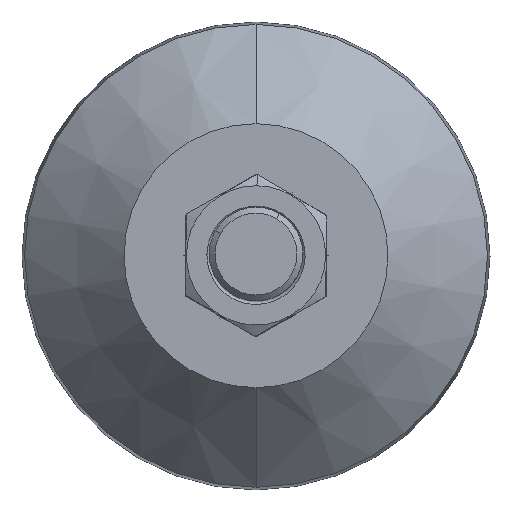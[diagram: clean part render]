
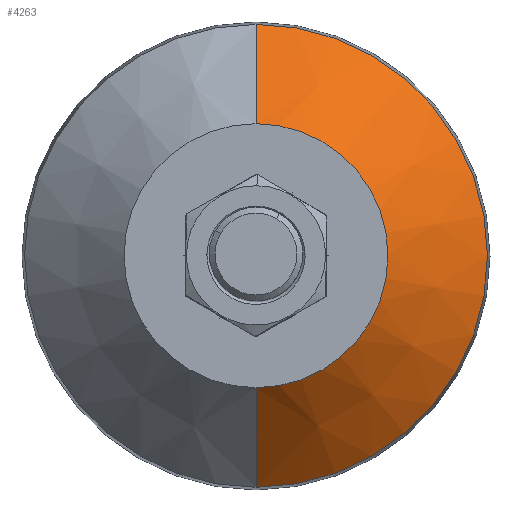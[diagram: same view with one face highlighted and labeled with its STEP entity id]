
A CAD part, top view. The second image highlights one B-rep face of the part: STEP entity #4263.
In plain terms, the highlighted conical face has half-angle 45 degrees and reference radius 22.564 mm.
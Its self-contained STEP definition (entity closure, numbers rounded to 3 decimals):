
#323 = CARTESIAN_POINT ( 'NONE',  ( 0., 0., 12.5 ) ) ;
#422 = ORIENTED_EDGE ( 'NONE', *, *, #5555, .F. ) ;
#831 = DIRECTION ( 'NONE',  ( 0., 0., 1. ) ) ;
#842 = LINE ( 'NONE', #11246, #1211 ) ;
#917 = CIRCLE ( 'NONE', #4630, 39.563 ) ;
#1211 = VECTOR ( 'NONE', #12425, 1000. ) ;
#1458 = CIRCLE ( 'NONE', #6560, 22.563 ) ;
#1505 = DIRECTION ( 'NONE',  ( -1., 0., 0. ) ) ;
#1725 = CARTESIAN_POINT ( 'NONE',  ( 0., -22.563, 29.5 ) ) ;
#3751 = VERTEX_POINT ( 'NONE', #7459 ) ;
#3802 = VERTEX_POINT ( 'NONE', #11127 ) ;
#4263 = ADVANCED_FACE ( 'NONE', ( #12809 ), #5121, .T. ) ;
#4268 = CARTESIAN_POINT ( 'NONE',  ( 0., -39.563, 12.5 ) ) ;
#4521 = CARTESIAN_POINT ( 'NONE',  ( 0., 39.563, 12.5 ) ) ;
#4630 = AXIS2_PLACEMENT_3D ( 'NONE', #4749, #12940, #5939 ) ;
#4749 = CARTESIAN_POINT ( 'NONE',  ( 0., 0., 12.5 ) ) ;
#4880 = DIRECTION ( 'NONE',  ( 0., -0.707, -0.707 ) ) ;
#5121 = CONICAL_SURFACE ( 'NONE', #7539, 22.563, 0.785 ) ;
#5544 = VERTEX_POINT ( 'NONE', #4268 ) ;
#5555 = EDGE_CURVE ( 'NONE', #3751, #12237, #842, .T. ) ;
#5727 = CARTESIAN_POINT ( 'NONE',  ( 0., 0., 29.5 ) ) ;
#5939 = DIRECTION ( 'NONE',  ( -1., 0., 0. ) ) ;
#6560 = AXIS2_PLACEMENT_3D ( 'NONE', #7873, #831, #9022 ) ;
#6844 = ORIENTED_EDGE ( 'NONE', *, *, #11896, .T. ) ;
#6896 = DIRECTION ( 'NONE',  ( 0., 1., 0. ) ) ;
#7290 = LINE ( 'NONE', #9518, #13162 ) ;
#7459 = CARTESIAN_POINT ( 'NONE',  ( 0., 22.563, 29.5 ) ) ;
#7539 = AXIS2_PLACEMENT_3D ( 'NONE', #5727, #9236, #6896 ) ;
#7873 = CARTESIAN_POINT ( 'NONE',  ( 0., 0., 29.5 ) ) ;
#8514 = DIRECTION ( 'NONE',  ( 0., 0., 1. ) ) ;
#8643 = EDGE_CURVE ( 'NONE', #3802, #12237, #917, .T. ) ;
#9022 = DIRECTION ( 'NONE',  ( 0., 1., 0. ) ) ;
#9052 = ORIENTED_EDGE ( 'NONE', *, *, #11186, .F. ) ;
#9236 = DIRECTION ( 'NONE',  ( 0., 0., -1. ) ) ;
#9496 = ORIENTED_EDGE ( 'NONE', *, *, #8643, .T. ) ;
#9518 = CARTESIAN_POINT ( 'NONE',  ( 0., -22.563, 29.5 ) ) ;
#10515 = EDGE_LOOP ( 'NONE', ( #9052, #13343, #6844, #9496, #422 ) ) ;
#11127 = CARTESIAN_POINT ( 'NONE',  ( 39.563, 0., 12.5 ) ) ;
#11186 = EDGE_CURVE ( 'NONE', #13091, #3751, #1458, .T. ) ;
#11246 = CARTESIAN_POINT ( 'NONE',  ( 0., 22.563, 29.5 ) ) ;
#11896 = EDGE_CURVE ( 'NONE', #5544, #3802, #12426, .T. ) ;
#11957 = AXIS2_PLACEMENT_3D ( 'NONE', #323, #8514, #1505 ) ;
#12237 = VERTEX_POINT ( 'NONE', #4521 ) ;
#12425 = DIRECTION ( 'NONE',  ( 0., 0.707, -0.707 ) ) ;
#12426 = CIRCLE ( 'NONE', #11957, 39.563 ) ;
#12809 = FACE_OUTER_BOUND ( 'NONE', #10515, .T. ) ;
#12876 = EDGE_CURVE ( 'NONE', #13091, #5544, #7290, .T. ) ;
#12940 = DIRECTION ( 'NONE',  ( 0., 0., 1. ) ) ;
#13091 = VERTEX_POINT ( 'NONE', #1725 ) ;
#13162 = VECTOR ( 'NONE', #4880, 1000. ) ;
#13343 = ORIENTED_EDGE ( 'NONE', *, *, #12876, .T. ) ;
